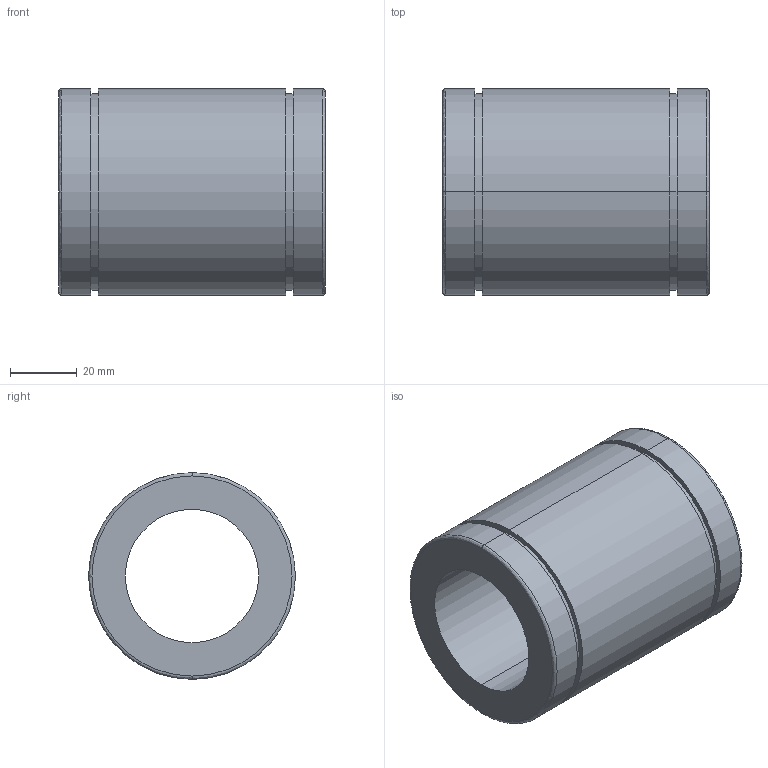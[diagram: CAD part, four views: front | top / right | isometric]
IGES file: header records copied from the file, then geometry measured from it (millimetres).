
Start section: 3D InterOp IGES (Version 21 0 1), Spatial Corp. Copyright (c) 1999-2007.
Global section: file name: L-40V.igs; native system: Spatial Corp.; preprocessor: 3D InterOp GENERIC/IGES 3.0; author: Noname; organization: Noname; date: 20220516.093750; units: millimetre
Bounding box: 80 x 62 x 62 mm (x, y, z)
Surface area: 30092 mm2 (no closed solid volume)
Topology: 0 solids, 0 shells, 22 faces, 88 edges, 88 vertices
Faces by surface type: revolution 16, extrusion 6
